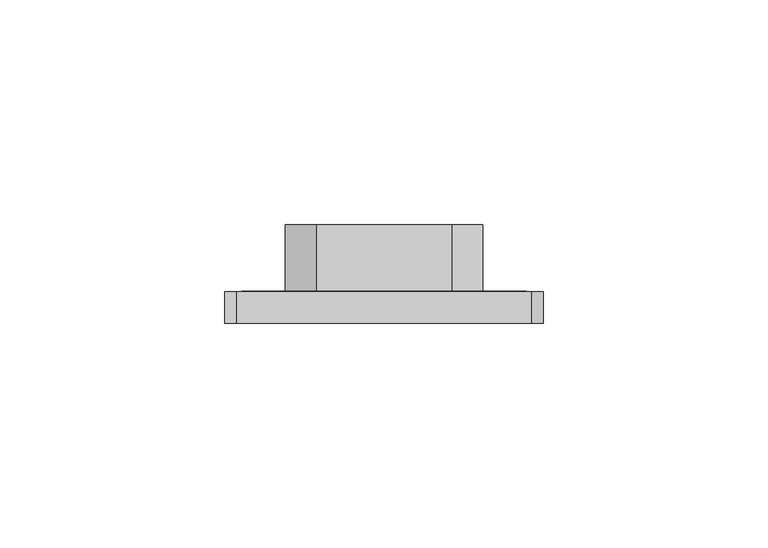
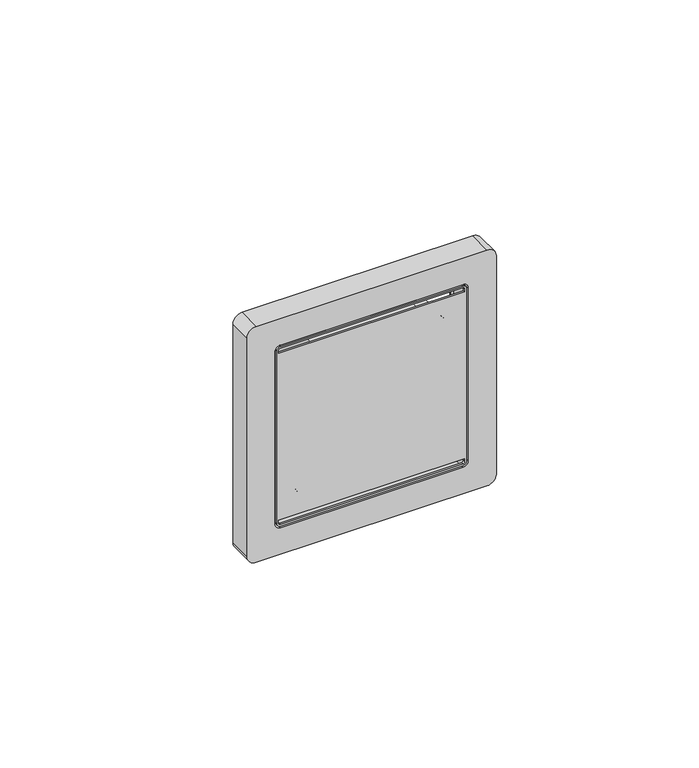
"""IFC4 building model written with IfcOpenShell, lengths in millimetres: proxy geometry, Cala KNX MultiTouch T : Cala KNX MultiTouch T Light, schwarz RAL 9005."""

from ifc_helpers import new_model, si_unit, point, frame, frame_2d, origin, place, context, project, spatial, polyline, circle_curve, trimmed, segment, composite_curve, outline, extrude, source, transform, mapped, element, save


def electrical_fixtures_a22460f4(model_context):
    return source(origin(), model_context, "Body", "SweptSolid", [
        extrude(outline(composite_curve([segment(trimmed(circle_curve(frame_2d((68.3993065, -32.8993065)), 2.6006935), [point((71.0, -32.8993065))], [point((68.3993065, -35.5))], False, "CARTESIAN"), True, "CONTINUOUS"), segment(polyline([(68.3993065, -35.5), (2.6006935, -35.5)]), True, "CONTINUOUS"), segment(trimmed(circle_curve(frame_2d((2.6006935, -32.8993065)), 2.6006935), [point((2.6006935, -35.5))], [point((0.0, -32.8993065))], False, "CARTESIAN"), True, "CONTINUOUS"), segment(polyline([(0.0, -32.8993065), (0.0, 32.8993065)]), True, "CONTINUOUS"), segment(trimmed(circle_curve(frame_2d((2.6006935, 32.8993065)), 2.6006935), [point((0.0, 32.8993065))], [point((2.6006935, 35.5))], False, "CARTESIAN"), True, "CONTINUOUS"), segment(polyline([(2.6006935, 35.5), (68.3993065, 35.5)]), True, "CONTINUOUS"), segment(trimmed(circle_curve(frame_2d((68.3993065, 32.8993065)), 2.6006935), [point((68.3993065, 35.5))], [point((71.0, 32.8993065))], False, "CARTESIAN"), True, "CONTINUOUS"), segment(polyline([(71.0, 32.8993065), (71.0, -32.8993065)]), True, "CONTINUOUS")], self_intersect=False), holes=[composite_curve([segment(polyline([(63.0, -25.9768966), (63.0, 25.9768966)]), True, "CONTINUOUS"), segment(trimmed(circle_curve(frame_2d((61.4768966, 25.9768966)), 1.5231034), [point((63.0, 25.9768966))], [point((61.4768966, 27.5))], True, "CARTESIAN"), True, "CONTINUOUS"), segment(polyline([(61.4768966, 27.5), (9.5231034, 27.5)]), True, "CONTINUOUS"), segment(trimmed(circle_curve(frame_2d((9.5231034, 25.9768966)), 1.5231034), [point((9.5231034, 27.5))], [point((8.0, 25.9768966))], True, "CARTESIAN"), True, "CONTINUOUS"), segment(polyline([(8.0, 25.9768966), (8.0, -25.9768966)]), True, "CONTINUOUS"), segment(trimmed(circle_curve(frame_2d((9.5231034, -25.9768966)), 1.5231034), [point((8.0, -25.9768966))], [point((9.5231034, -27.5))], True, "CARTESIAN"), True, "CONTINUOUS"), segment(polyline([(9.5231034, -27.5), (61.4768966, -27.5)]), True, "CONTINUOUS"), segment(trimmed(circle_curve(frame_2d((61.4768966, -25.9768966)), 1.5231034), [point((61.4768966, -27.5))], [point((63.0, -25.9768966))], True, "CARTESIAN"), True, "CONTINUOUS")], self_intersect=False)]), frame((0.0, -7.0, 0.0), z_axis=(0.0, 1.0, 0.0), x_axis=(0.0, 0.0, 1.0)), (0.0, 0.0, 1.0), 7.0),
        extrude(outline(polyline([(67.2, -27.5), (63.0, -31.7), (8.0, -31.7), (3.75, -27.5), (3.75, 27.5), (8.0, 31.7), (63.0, 31.7), (67.2, 27.5), (67.2, -27.5)]), holes=[polyline([(62.0, -22.0323443), (62.0, 22.0323443), (57.5323443, 26.5), (13.4676557, 26.5), (9.0, 22.0323443), (9.0, -22.0323443), (13.4676557, -26.5), (57.5323443, -26.5), (62.0, -22.0323443)])]), frame((0.0, 0.0, 0.0), z_axis=(0.0, 1.0, 0.0), x_axis=(0.0, 0.0, 1.0)), (0.0, 0.0, 1.0), 0.2),
        extrude(outline(composite_curve([segment(polyline([(20.35, 22.0), (50.65, 22.0)]), True, "CONTINUOUS"), segment(trimmed(circle_curve(frame_2d((50.65, 15.1176557)), 6.8823443), [point((50.65, 22.0))], [point((57.5323443, 15.1176557))], False, "CARTESIAN"), True, "CONTINUOUS"), segment(polyline([(57.5323443, 15.1176557), (57.5323443, -15.1176557)]), True, "CONTINUOUS"), segment(trimmed(circle_curve(frame_2d((50.65, -15.1176557)), 6.8823443), [point((57.5323443, -15.1176557))], [point((50.65, -22.0))], False, "CARTESIAN"), True, "CONTINUOUS"), segment(polyline([(50.65, -22.0), (20.35, -22.0)]), True, "CONTINUOUS"), segment(trimmed(circle_curve(frame_2d((20.35, -15.1176557)), 6.8823443), [point((20.35, -22.0))], [point((13.4676557, -15.1176557))], False, "CARTESIAN"), True, "CONTINUOUS"), segment(polyline([(13.4676557, -15.1176557), (13.4676557, 15.1176557)]), True, "CONTINUOUS"), segment(trimmed(circle_curve(frame_2d((20.35, 15.1176557)), 6.8823443), [point((13.4676557, 15.1176557))], [point((20.35, 22.0))], False, "CARTESIAN"), True, "CONTINUOUS")], self_intersect=False)), frame((0.0, -6.415654, 0.0), z_axis=(0.0, 1.0, 0.0), x_axis=(0.0, 0.0, 1.0)), (0.0, 0.0, 1.0), 21.415654),
        extrude(outline(composite_curve([segment(polyline([(62.5, 25.9768966), (62.5, -25.9768966)]), True, "CONTINUOUS"), segment(trimmed(circle_curve(frame_2d((61.4768966, -25.9768966)), 1.0231034), [point((62.5, -25.9768966))], [point((61.4768966, -27.0))], False, "CARTESIAN"), True, "CONTINUOUS"), segment(polyline([(61.4768966, -27.0), (9.5231034, -27.0)]), True, "CONTINUOUS"), segment(trimmed(circle_curve(frame_2d((9.5231034, -25.9768966)), 1.0231034), [point((9.5231034, -27.0))], [point((8.5, -25.9768966))], False, "CARTESIAN"), True, "CONTINUOUS"), segment(polyline([(8.5, -25.9768966), (8.5, 25.9768966)]), True, "CONTINUOUS"), segment(trimmed(circle_curve(frame_2d((9.5231034, 25.9768966)), 1.0231034), [point((8.5, 25.9768966))], [point((9.5231034, 27.0))], False, "CARTESIAN"), True, "CONTINUOUS"), segment(polyline([(9.5231034, 27.0), (61.4768966, 27.0)]), True, "CONTINUOUS"), segment(trimmed(circle_curve(frame_2d((61.4768966, 25.9768966)), 1.0231034), [point((61.4768966, 27.0))], [point((62.5, 25.9768966))], False, "CARTESIAN"), True, "CONTINUOUS")], self_intersect=False), holes=[composite_curve([segment(trimmed(circle_curve(frame_2d((61.4768966, -25.9768966)), 0.5231034), [point((61.4768966, -26.5))], [point((62.0, -25.9768966))], True, "CARTESIAN"), True, "CONTINUOUS"), segment(polyline([(62.0, -25.9768966), (62.0, 25.9768966)]), True, "CONTINUOUS"), segment(trimmed(circle_curve(frame_2d((61.4768966, 25.9768966)), 0.5231034), [point((62.0, 25.9768966))], [point((61.4768966, 26.5))], True, "CARTESIAN"), True, "CONTINUOUS"), segment(polyline([(61.4768966, 26.5), (60.65, 26.5), (60.65, -26.5), (61.4768966, -26.5)]), True, "CONTINUOUS")], self_intersect=False), composite_curve([segment(polyline([(9.0, 25.9768966), (9.0, -25.9768966)]), True, "CONTINUOUS"), segment(trimmed(circle_curve(frame_2d((9.5231034, -25.9768966)), 0.5231034), [point((9.0, -25.9768966))], [point((9.5231034, -26.5))], True, "CARTESIAN"), True, "CONTINUOUS"), segment(polyline([(9.5231034, -26.5), (10.35, -26.5), (10.35, 26.5), (9.5231034, 26.5)]), True, "CONTINUOUS"), segment(trimmed(circle_curve(frame_2d((9.5231034, 25.9768966)), 0.5231034), [point((9.5231034, 26.5))], [point((9.0, 25.9768966))], True, "CARTESIAN"), True, "CONTINUOUS")], self_intersect=False)]), frame((0.0, -7.0, 0.0), z_axis=(0.0, 1.0, 0.0), x_axis=(0.0, 0.0, 1.0)), (0.0, 0.0, 1.0), 0.584346),
    ])


if __name__ == "__main__":
    model = new_model("IFC4")
    model_context = context("Model", 3, world=origin())
    ifc_project = project(units=[si_unit("LENGTHUNIT", "METRE", prefix="MILLI")], contexts=[model_context])
    site = spatial("IfcSite", under=ifc_project)
    building = spatial("IfcBuilding", under=site)
    placement = place(None, origin())
    electrical_fixtures_shape = electrical_fixtures_a22460f4(model_context)
    element("IfcBuildingElementProxy", 1, Name="Cala KNX MultiTouch T : Cala KNX MultiTouch T Light, schwarz RAL 9005", ObjectType="Cala KNX MultiTouch T : Cala KNX MultiTouch T Light, schwarz RAL 9005", at=placement, inside=building, context=model_context, shape_type="MappedRepresentation", body=[
        mapped(electrical_fixtures_shape, transform((0.0, 0.0, 0.0), x_axis=(1.0, 0.0, 0.0), y_axis=(0.0, 1.0, 0.0), z_axis=(0.0, 0.0, 1.0))),
    ])
    save(model, "model.ifc")
